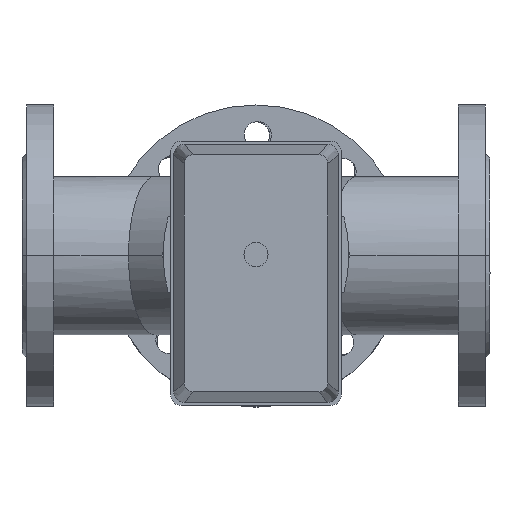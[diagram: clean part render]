
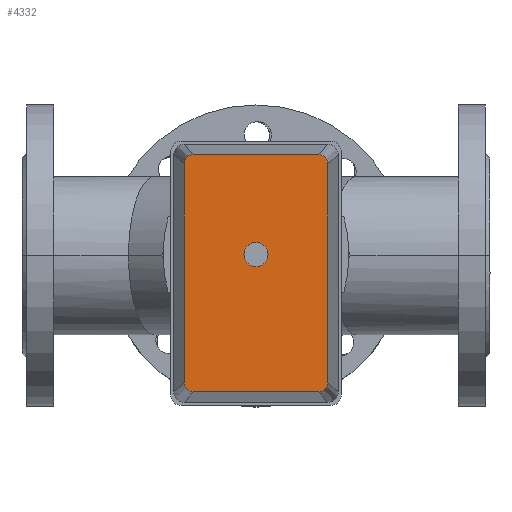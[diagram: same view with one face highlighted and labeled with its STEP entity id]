
A CAD part, top view. The second image highlights one B-rep face of the part: STEP entity #4332.
In plain terms, the highlighted planar face has unit normal (0, 0, 1).
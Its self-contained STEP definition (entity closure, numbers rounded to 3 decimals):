
#363=LINE('',#7415,#608);
#364=LINE('',#7419,#609);
#365=LINE('',#7423,#610);
#366=LINE('',#7427,#611);
#608=VECTOR('',#6125,304.8);
#609=VECTOR('',#6128,304.8);
#610=VECTOR('',#6131,304.8);
#611=VECTOR('',#6134,304.8);
#1082=FACE_OUTER_BOUND('',#1400,.T.);
#1400=EDGE_LOOP('',(#3601,#3602,#3603,#3604,#3605,#3606,#3607,#3608));
#1706=CIRCLE('',#4868,6.);
#1707=CIRCLE('',#4869,6.);
#1708=CIRCLE('',#4870,6.);
#1709=CIRCLE('',#4871,6.);
#2067=VERTEX_POINT('',#7413);
#2068=VERTEX_POINT('',#7414);
#2069=VERTEX_POINT('',#7416);
#2070=VERTEX_POINT('',#7418);
#2071=VERTEX_POINT('',#7420);
#2072=VERTEX_POINT('',#7422);
#2073=VERTEX_POINT('',#7424);
#2074=VERTEX_POINT('',#7426);
#2590=EDGE_CURVE('',#2067,#2068,#363,.T.);
#2591=EDGE_CURVE('',#2068,#2069,#1706,.T.);
#2592=EDGE_CURVE('',#2069,#2070,#364,.T.);
#2593=EDGE_CURVE('',#2070,#2071,#1707,.T.);
#2594=EDGE_CURVE('',#2071,#2072,#365,.T.);
#2595=EDGE_CURVE('',#2072,#2073,#1708,.T.);
#2596=EDGE_CURVE('',#2073,#2074,#366,.T.);
#2597=EDGE_CURVE('',#2074,#2067,#1709,.T.);
#3601=ORIENTED_EDGE('',*,*,#2590,.T.);
#3602=ORIENTED_EDGE('',*,*,#2591,.T.);
#3603=ORIENTED_EDGE('',*,*,#2592,.T.);
#3604=ORIENTED_EDGE('',*,*,#2593,.T.);
#3605=ORIENTED_EDGE('',*,*,#2594,.T.);
#3606=ORIENTED_EDGE('',*,*,#2595,.T.);
#3607=ORIENTED_EDGE('',*,*,#2596,.T.);
#3608=ORIENTED_EDGE('',*,*,#2597,.T.);
#3872=PLANE('',#4867);
#4332=ADVANCED_FACE('',(#1082),#3872,.T.);
#4867=AXIS2_PLACEMENT_3D('',#7412,#6123,#6124);
#4868=AXIS2_PLACEMENT_3D('',#7417,#6126,#6127);
#4869=AXIS2_PLACEMENT_3D('',#7421,#6129,#6130);
#4870=AXIS2_PLACEMENT_3D('',#7425,#6132,#6133);
#4871=AXIS2_PLACEMENT_3D('',#7428,#6135,#6136);
#6123=DIRECTION('center_axis',(0.,0.,1.));
#6124=DIRECTION('ref_axis',(0.,-1.,0.));
#6125=DIRECTION('',(0.,-1.,0.));
#6126=DIRECTION('center_axis',(0.,0.,1.));
#6127=DIRECTION('ref_axis',(1.,0.,0.));
#6128=DIRECTION('',(1.,0.,0.));
#6129=DIRECTION('center_axis',(0.,0.,1.));
#6130=DIRECTION('ref_axis',(1.,0.,0.));
#6131=DIRECTION('',(0.,1.,0.));
#6132=DIRECTION('center_axis',(0.,0.,1.));
#6133=DIRECTION('ref_axis',(1.,0.,0.));
#6134=DIRECTION('',(-1.,0.,0.));
#6135=DIRECTION('center_axis',(0.,0.,1.));
#6136=DIRECTION('ref_axis',(1.,0.,0.));
#7412=CARTESIAN_POINT('Origin',(-12.5,0.002,360.));
#7413=CARTESIAN_POINT('',(-91.,41.502,360.));
#7414=CARTESIAN_POINT('',(-91.,-41.498,360.));
#7415=CARTESIAN_POINT('',(-91.,-41.498,360.));
#7416=CARTESIAN_POINT('',(-85.,-47.498,360.));
#7417=CARTESIAN_POINT('Origin',(-85.,-41.498,360.));
#7418=CARTESIAN_POINT('',(60.,-47.498,360.));
#7419=CARTESIAN_POINT('',(60.,-47.498,360.));
#7420=CARTESIAN_POINT('',(66.,-41.498,360.));
#7421=CARTESIAN_POINT('Origin',(60.,-41.498,360.));
#7422=CARTESIAN_POINT('',(66.,41.502,360.));
#7423=CARTESIAN_POINT('',(66.,41.502,360.));
#7424=CARTESIAN_POINT('',(60.,47.502,360.));
#7425=CARTESIAN_POINT('Origin',(60.,41.502,360.));
#7426=CARTESIAN_POINT('',(-85.,47.502,360.));
#7427=CARTESIAN_POINT('',(-85.,47.502,360.));
#7428=CARTESIAN_POINT('Origin',(-85.,41.502,360.));
